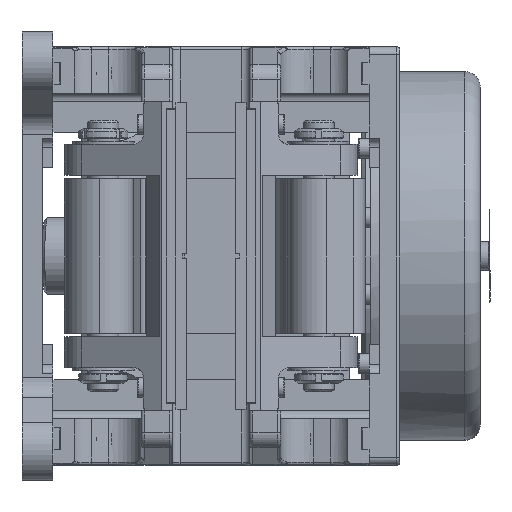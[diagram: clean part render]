
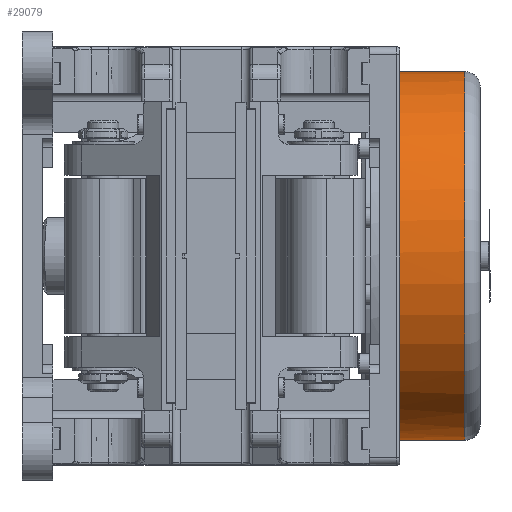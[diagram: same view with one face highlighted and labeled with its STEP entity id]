
A CAD part, front view. The second image highlights one B-rep face of the part: STEP entity #29079.
In plain terms, the highlighted cylindrical face has radius 119 mm (diameter 238 mm), a full revolution.
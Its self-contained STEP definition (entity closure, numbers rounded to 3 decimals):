
#2088=FACE_OUTER_BOUND('',#3707,.T.);
#3707=EDGE_LOOP('',(#18918,#18919,#18920,#18921,#18922,#18923,#18924,#18925,
#18926));
#5515=LINE('',#43284,#7614);
#7614=VECTOR('',#34396,119.);
#9720=CIRCLE('',#30760,119.);
#9721=CIRCLE('',#30761,119.);
#9722=CIRCLE('',#30762,119.);
#9723=CIRCLE('',#30763,119.);
#9758=CIRCLE('',#30828,119.);
#9759=CIRCLE('',#30829,119.);
#9760=CIRCLE('',#30830,119.);
#11381=VERTEX_POINT('',#42836);
#11382=VERTEX_POINT('',#42837);
#11383=VERTEX_POINT('',#42839);
#11384=VERTEX_POINT('',#42841);
#11440=VERTEX_POINT('',#43276);
#11441=VERTEX_POINT('',#43278);
#11442=VERTEX_POINT('',#43280);
#14283=EDGE_CURVE('',#11381,#11382,#9720,.T.);
#14284=EDGE_CURVE('',#11383,#11381,#9721,.T.);
#14285=EDGE_CURVE('',#11384,#11383,#9722,.T.);
#14287=EDGE_CURVE('',#11382,#11384,#9723,.T.);
#14371=EDGE_CURVE('',#11440,#11441,#9758,.T.);
#14372=EDGE_CURVE('',#11441,#11442,#9759,.T.);
#14373=EDGE_CURVE('',#11442,#11440,#9760,.T.);
#14374=EDGE_CURVE('',#11441,#11382,#5515,.T.);
#18918=ORIENTED_EDGE('',*,*,#14373,.F.);
#18919=ORIENTED_EDGE('',*,*,#14372,.F.);
#18920=ORIENTED_EDGE('',*,*,#14374,.T.);
#18921=ORIENTED_EDGE('',*,*,#14287,.T.);
#18922=ORIENTED_EDGE('',*,*,#14285,.T.);
#18923=ORIENTED_EDGE('',*,*,#14284,.T.);
#18924=ORIENTED_EDGE('',*,*,#14283,.T.);
#18925=ORIENTED_EDGE('',*,*,#14374,.F.);
#18926=ORIENTED_EDGE('',*,*,#14371,.F.);
#27122=CYLINDRICAL_SURFACE('',#30831,119.);
#29079=ADVANCED_FACE('',(#2088),#27122,.T.);
#30760=AXIS2_PLACEMENT_3D('',#42838,#34226,#34227);
#30761=AXIS2_PLACEMENT_3D('',#42840,#34228,#34229);
#30762=AXIS2_PLACEMENT_3D('',#42842,#34230,#34231);
#30763=AXIS2_PLACEMENT_3D('',#42844,#34233,#34234);
#30828=AXIS2_PLACEMENT_3D('',#43279,#34388,#34389);
#30829=AXIS2_PLACEMENT_3D('',#43281,#34390,#34391);
#30830=AXIS2_PLACEMENT_3D('',#43282,#34392,#34393);
#30831=AXIS2_PLACEMENT_3D('',#43283,#34394,#34395);
#34226=DIRECTION('center_axis',(1.,0.,0.));
#34227=DIRECTION('ref_axis',(0.,0.782,0.623));
#34228=DIRECTION('center_axis',(1.,0.,0.));
#34229=DIRECTION('ref_axis',(0.,0.782,0.623));
#34230=DIRECTION('center_axis',(1.,0.,0.));
#34231=DIRECTION('ref_axis',(0.,0.782,0.623));
#34233=DIRECTION('center_axis',(1.,0.,0.));
#34234=DIRECTION('ref_axis',(0.,0.782,0.623));
#34388=DIRECTION('center_axis',(1.,0.,0.));
#34389=DIRECTION('ref_axis',(0.,0.782,0.623));
#34390=DIRECTION('center_axis',(1.,0.,0.));
#34391=DIRECTION('ref_axis',(0.,0.782,0.623));
#34392=DIRECTION('center_axis',(1.,0.,0.));
#34393=DIRECTION('ref_axis',(0.,0.782,0.623));
#34394=DIRECTION('center_axis',(1.,0.,0.));
#34395=DIRECTION('ref_axis',(0.,0.782,0.623));
#34396=DIRECTION('',(-1.,0.,0.));
#42836=CARTESIAN_POINT('',(112.1,310.,269.));
#42837=CARTESIAN_POINT('',(112.1,216.962,75.805));
#42838=CARTESIAN_POINT('Origin',(112.1,310.,150.));
#42839=CARTESIAN_POINT('',(112.1,403.038,224.195));
#42840=CARTESIAN_POINT('Origin',(112.1,310.,150.));
#42841=CARTESIAN_POINT('',(112.1,310.,31.));
#42842=CARTESIAN_POINT('Origin',(112.1,310.,150.));
#42844=CARTESIAN_POINT('Origin',(112.1,310.,150.));
#43276=CARTESIAN_POINT('',(163.748,235.805,243.038));
#43278=CARTESIAN_POINT('',(163.748,216.962,75.805));
#43279=CARTESIAN_POINT('Origin',(163.748,310.,150.));
#43280=CARTESIAN_POINT('',(163.748,403.038,224.195));
#43281=CARTESIAN_POINT('Origin',(163.748,310.,150.));
#43282=CARTESIAN_POINT('Origin',(163.748,310.,150.));
#43283=CARTESIAN_POINT('Origin',(137.924,310.,150.));
#43284=CARTESIAN_POINT('',(137.924,216.962,75.805));
